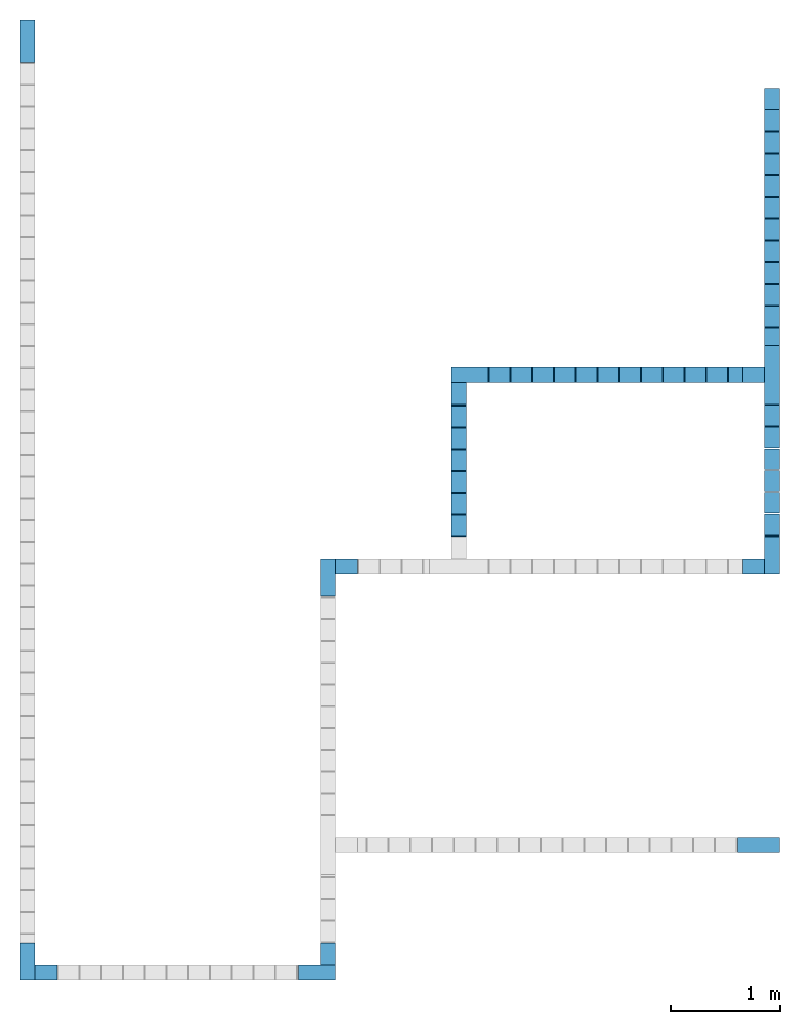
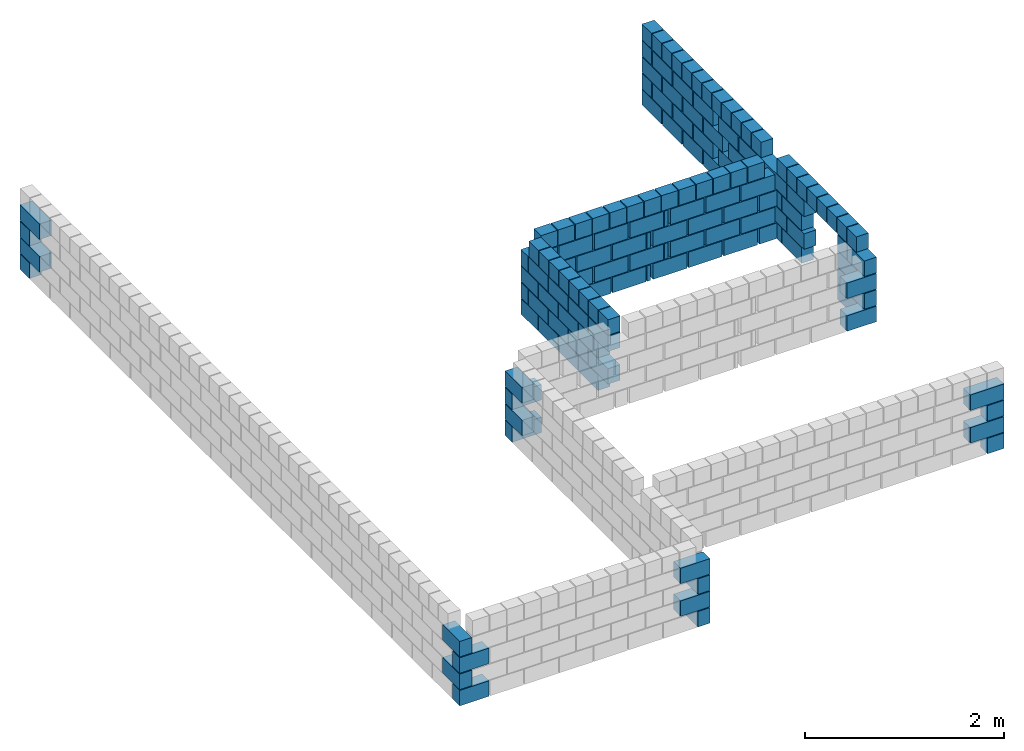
# One storey, part 3 of 3: 13 walls.
"""IFC4 building model written with IfcOpenShell, lengths in centimetres."""

from ifc_helpers import new_model, si_unit, derived_unit, frame, origin, origin_with_axes, origin_2d_with_axis, place, context, project, spatial, rectangle, extrude, element, save


model = new_model("IFC4")

# Units and contexts
model_context = context("Model", 3, precision=1e-05, world=origin_with_axes(), identifier="Body")
ifc_project = project(units=[si_unit("LENGTHUNIT", "METRE", prefix="CENTI"), si_unit("VOLUMEUNIT", "CUBIC_METRE"), si_unit("AREAUNIT", "SQUARE_METRE"), si_unit("POWERUNIT", "WATT"), si_unit("LUMINOUSFLUXUNIT", "LUMEN"), si_unit("ELECTRICCURRENTUNIT", "AMPERE"), si_unit("PRESSUREUNIT", "PASCAL", prefix="KILO"), si_unit("MASSUNIT", "GRAM", prefix="KILO"), si_unit("PLANEANGLEUNIT", "RADIAN"), derived_unit("VOLUMETRICFLOWRATEUNIT", [(si_unit("LENGTHUNIT", "METRE"), 3), (si_unit("TIMEUNIT", "SECOND"), -1)])], contexts=[model_context])

# Site, building, storey
site_placement = place(None, origin_with_axes())
site = spatial("IfcSite", under=ifc_project, at=site_placement)
building_placement = place(site_placement, origin())
building = spatial("IfcBuilding", under=site, at=building_placement)
placement = place(building_placement, origin_with_axes())
storey_placement = place(placement, frame((0.0, 0.0, 272.0), z_axis=(0.0, 0.0, 1.0), x_axis=(1.0, 0.0, 0.0)))
storey = spatial("IfcBuildingStorey", under=building, at=storey_placement, Name="LAJE", CompositionType="ELEMENT", Elevation=272.0)

# Walls
wall_1_placement = place(storey_placement, frame((18.0, 18.0, 79.0), z_axis=(0.0, 0.0, 1.0), x_axis=(1.0, 0.0, 0.0)))
element("IfcWall", 1, at=wall_1_placement, inside=storey, context=model_context, shape_type="SolidModel", body=[
    extrude(rectangle(XDim=34.0, YDim=14.0, at=origin_2d_with_axis()), frame((0.0, -10.0, -79.0), z_axis=(0.0, 0.0, 1.0), x_axis=(1.0, 0.0, 0.0)), (0.0, 0.0, 1.0), 19.0),
    extrude(rectangle(XDim=34.0, YDim=14.0, at=origin_2d_with_axis()), frame((-10.0, 0.0, -59.0), z_axis=(0.0, 0.0, 1.0), x_axis=(0.0, 1.0, 0.0)), (0.0, 0.0, 1.0), 19.0),
    extrude(rectangle(XDim=34.0, YDim=14.0, at=origin_2d_with_axis()), frame((0.0, -10.0, -39.0), z_axis=(0.0, 0.0, 1.0), x_axis=(1.0, 0.0, 0.0)), (0.0, 0.0, 1.0), 19.0),
    extrude(rectangle(XDim=34.0, YDim=14.0, at=origin_2d_with_axis()), frame((-10.0, 0.0, -19.0), z_axis=(0.0, 0.0, 1.0), x_axis=(0.0, 1.0, 0.0)), (0.0, 0.0, 1.0), 19.0),
])
wall_2_placement = place(storey_placement, frame((8.0, 863.51, 79.0), z_axis=(0.0, 0.0, 1.0), x_axis=(1.0, 0.0, 0.0)))
element("IfcWall", 2, at=wall_2_placement, inside=storey, context=model_context, shape_type="SolidModel", body=[
    extrude(rectangle(XDim=19.0, YDim=14.0, at=origin_2d_with_axis()), frame((0.0, 10.0, -79.0), z_axis=(0.0, 0.0, 1.0), x_axis=(0.0, -1.0, 0.0)), (0.0, 0.0, 1.0), 19.0),
    extrude(rectangle(XDim=39.0, YDim=14.0, at=origin_2d_with_axis()), frame((0.0, 0.0, -59.0), z_axis=(0.0, 0.0, 1.0), x_axis=(0.0, -1.0, 0.0)), (0.0, 0.0, 1.0), 19.0),
    extrude(rectangle(XDim=19.0, YDim=14.0, at=origin_2d_with_axis()), frame((0.0, 10.0, -39.0), z_axis=(0.0, 0.0, 1.0), x_axis=(0.0, -1.0, 0.0)), (0.0, 0.0, 1.0), 19.0),
    extrude(rectangle(XDim=39.0, YDim=14.0, at=origin_2d_with_axis()), frame((0.0, 0.0, -19.0), z_axis=(0.0, 0.0, 1.0), x_axis=(0.0, -1.0, 0.0)), (0.0, 0.0, 1.0), 19.0),
])
wall_3_placement = place(storey_placement, frame((274.0, 18.0, 79.0), z_axis=(0.0, 0.0, 1.0), x_axis=(1.0, 0.0, 0.0)))
element("IfcWall", 3, at=wall_3_placement, inside=storey, context=model_context, shape_type="SolidModel", body=[
    extrude(rectangle(XDim=34.0, YDim=14.0, at=origin_2d_with_axis()), frame((10.0, 0.0, -79.0), z_axis=(0.0, 0.0, 1.0), x_axis=(0.0, 1.0, 0.0)), (0.0, 0.0, 1.0), 19.0),
    extrude(rectangle(XDim=34.0, YDim=14.0, at=origin_2d_with_axis()), frame((0.0, -10.0, -59.0), z_axis=(0.0, 0.0, 1.0), x_axis=(-1.0, 0.0, 0.0)), (0.0, 0.0, 1.0), 19.0),
    extrude(rectangle(XDim=34.0, YDim=14.0, at=origin_2d_with_axis()), frame((10.0, 0.0, -39.0), z_axis=(0.0, 0.0, 1.0), x_axis=(0.0, 1.0, 0.0)), (0.0, 0.0, 1.0), 19.0),
    extrude(rectangle(XDim=34.0, YDim=14.0, at=origin_2d_with_axis()), frame((0.0, -10.0, -19.0), z_axis=(0.0, 0.0, 1.0), x_axis=(-1.0, 0.0, 0.0)), (0.0, 0.0, 1.0), 19.0),
])
wall_4_placement = place(storey_placement, frame((692.01, 800.51, 79.0), z_axis=(0.0, 0.0, 1.0), x_axis=(1.0, 0.0, 0.0)))
element("IfcWall", 4, at=wall_4_placement, inside=storey, context=model_context, shape_type="SolidModel", body=[
    extrude(rectangle(XDim=39.0, YDim=14.0, at=origin_2d_with_axis()), frame((0.0, 0.0, -79.0), z_axis=(0.0, 0.0, 1.0), x_axis=(0.0, -1.0, 0.0)), (0.0, 0.0, 1.0), 19.0),
    extrude(rectangle(XDim=19.0, YDim=14.0, at=origin_2d_with_axis()), frame((0.0, 10.0, -59.0), z_axis=(0.0, 0.0, 1.0), x_axis=(0.0, -1.0, 0.0)), (0.0, 0.0, 1.0), 19.0),
    extrude(rectangle(XDim=39.0, YDim=14.0, at=origin_2d_with_axis()), frame((0.0, 0.0, -39.0), z_axis=(0.0, 0.0, 1.0), x_axis=(0.0, -1.0, 0.0)), (0.0, 0.0, 1.0), 19.0),
    extrude(rectangle(XDim=19.0, YDim=14.0, at=origin_2d_with_axis()), frame((0.0, 10.0, -19.0), z_axis=(0.0, 0.0, 1.0), x_axis=(0.0, -1.0, 0.0)), (0.0, 0.0, 1.0), 19.0),
])
wall_5_placement = place(storey_placement, frame((679.51, 125.0, 79.0), z_axis=(0.0, 0.0, 1.0), x_axis=(1.0, 0.0, 0.0)))
element("IfcWall", 5, at=wall_5_placement, inside=storey, context=model_context, shape_type="SolidModel", body=[
    extrude(rectangle(XDim=19.0, YDim=14.0, at=origin_2d_with_axis()), frame((10.0, 0.0, -79.0), z_axis=(0.0, 0.0, 1.0), x_axis=(-1.0, 0.0, 0.0)), (0.0, 0.0, 1.0), 19.0),
    extrude(rectangle(XDim=39.0, YDim=14.0, at=origin_2d_with_axis()), frame((0.0, 0.0, -59.0), z_axis=(0.0, 0.0, 1.0), x_axis=(-1.0, 0.0, 0.0)), (0.0, 0.0, 1.0), 19.0),
    extrude(rectangle(XDim=19.0, YDim=14.0, at=origin_2d_with_axis()), frame((10.0, 0.0, -39.0), z_axis=(0.0, 0.0, 1.0), x_axis=(-1.0, 0.0, 0.0)), (0.0, 0.0, 1.0), 19.0),
    extrude(rectangle(XDim=39.0, YDim=14.0, at=origin_2d_with_axis()), frame((0.0, 0.0, -19.0), z_axis=(0.0, 0.0, 1.0), x_axis=(-1.0, 0.0, 0.0)), (0.0, 0.0, 1.0), 19.0),
])
wall_6_placement = place(storey_placement, frame((682.01, 391.01, 79.0), z_axis=(0.0, 0.0, 1.0), x_axis=(1.0, 0.0, 0.0)))
element("IfcWall", 6, at=wall_6_placement, inside=storey, context=model_context, shape_type="SolidModel", body=[
    extrude(rectangle(XDim=34.0, YDim=14.0, at=origin_2d_with_axis()), frame((0.0, -10.0, -79.0), z_axis=(0.0, 0.0, 1.0), x_axis=(-1.0, 0.0, 0.0)), (0.0, 0.0, 1.0), 19.0),
    extrude(rectangle(XDim=34.0, YDim=14.0, at=origin_2d_with_axis()), frame((10.0, 0.0, -59.0), z_axis=(0.0, 0.0, 1.0), x_axis=(0.0, 1.0, 0.0)), (0.0, 0.0, 1.0), 19.0),
    extrude(rectangle(XDim=34.0, YDim=14.0, at=origin_2d_with_axis()), frame((0.0, -10.0, -39.0), z_axis=(0.0, 0.0, 1.0), x_axis=(-1.0, 0.0, 0.0)), (0.0, 0.0, 1.0), 19.0),
    extrude(rectangle(XDim=34.0, YDim=14.0, at=origin_2d_with_axis()), frame((10.0, 0.0, -19.0), z_axis=(0.0, 0.0, 1.0), x_axis=(0.0, 1.0, 0.0)), (0.0, 0.0, 1.0), 19.0),
])
wall_7_placement = place(storey_placement, frame((294.0, 371.01, 79.0), z_axis=(0.0, 0.0, 1.0), x_axis=(1.0, 0.0, 0.0)))
element("IfcWall", 7, at=wall_7_placement, inside=storey, context=model_context, shape_type="SolidModel", body=[
    extrude(rectangle(XDim=34.0, YDim=14.0, at=origin_2d_with_axis()), frame((0.0, 10.0, -79.0), z_axis=(0.0, 0.0, 1.0), x_axis=(1.0, 0.0, 0.0)), (0.0, 0.0, 1.0), 19.0),
    extrude(rectangle(XDim=34.0, YDim=14.0, at=origin_2d_with_axis()), frame((-10.0, 0.0, -59.0), z_axis=(0.0, 0.0, 1.0), x_axis=(0.0, -1.0, 0.0)), (0.0, 0.0, 1.0), 19.0),
    extrude(rectangle(XDim=34.0, YDim=14.0, at=origin_2d_with_axis()), frame((0.0, 10.0, -39.0), z_axis=(0.0, 0.0, 1.0), x_axis=(1.0, 0.0, 0.0)), (0.0, 0.0, 1.0), 19.0),
    extrude(rectangle(XDim=34.0, YDim=14.0, at=origin_2d_with_axis()), frame((-10.0, 0.0, -19.0), z_axis=(0.0, 0.0, 1.0), x_axis=(0.0, -1.0, 0.0)), (0.0, 0.0, 1.0), 19.0),
])
wall_8_placement = place(storey_placement, frame((682.01, 557.01, 79.0), z_axis=(0.0, 0.0, 1.0), x_axis=(1.0, 0.0, 0.0)))
element("IfcWall", 8, at=wall_8_placement, inside=storey, context=model_context, shape_type="SolidModel", body=[
    extrude(rectangle(XDim=34.0, YDim=14.0, at=origin_2d_with_axis()), frame((0.0, 0.0, -79.0), z_axis=(0.0, 0.0, 1.0), x_axis=(-1.0, 0.0, 0.0)), (0.0, 0.0, 1.0), 19.0),
    extrude(rectangle(XDim=54.0, YDim=14.0, at=origin_2d_with_axis()), frame((10.0, 0.0, -59.0), z_axis=(0.0, 0.0, 1.0), x_axis=(0.0, 1.0, 0.0)), (0.0, 0.0, 1.0), 19.0),
    extrude(rectangle(XDim=34.0, YDim=14.0, at=origin_2d_with_axis()), frame((0.0, 0.0, -39.0), z_axis=(0.0, 0.0, 1.0), x_axis=(-1.0, 0.0, 0.0)), (0.0, 0.0, 1.0), 19.0),
    extrude(rectangle(XDim=54.0, YDim=14.0, at=origin_2d_with_axis()), frame((10.0, 0.0, -19.0), z_axis=(0.0, 0.0, 1.0), x_axis=(0.0, 1.0, 0.0)), (0.0, 0.0, 1.0), 19.0),
])
wall_9_placement = place(storey_placement, frame((414.01, 547.01, 79.0), z_axis=(0.0, 0.0, 1.0), x_axis=(1.0, 0.0, 0.0)))
element("IfcWall", 9, at=wall_9_placement, inside=storey, context=model_context, shape_type="SolidModel", body=[
    extrude(rectangle(XDim=34.0, YDim=14.0, at=origin_2d_with_axis()), frame((-10.0, 0.0, -79.0), z_axis=(0.0, 0.0, 1.0), x_axis=(0.0, -1.0, 0.0)), (0.0, 0.0, 1.0), 19.0),
    extrude(rectangle(XDim=34.0, YDim=14.0, at=origin_2d_with_axis()), frame((0.0, 10.0, -59.0), z_axis=(0.0, 0.0, 1.0), x_axis=(1.0, 0.0, 0.0)), (0.0, 0.0, 1.0), 19.0),
    extrude(rectangle(XDim=34.0, YDim=14.0, at=origin_2d_with_axis()), frame((-10.0, 0.0, -39.0), z_axis=(0.0, 0.0, 1.0), x_axis=(0.0, -1.0, 0.0)), (0.0, 0.0, 1.0), 19.0),
    extrude(rectangle(XDim=34.0, YDim=14.0, at=origin_2d_with_axis()), frame((0.0, 10.0, -19.0), z_axis=(0.0, 0.0, 1.0), x_axis=(1.0, 0.0, 0.0)), (0.0, 0.0, 1.0), 19.0),
])
wall_10_placement = place(storey_placement, frame((547.51, 557.01, 99.0), z_axis=(0.0, 0.0, 1.0), x_axis=(1.0, 0.0, 0.0)))
element("IfcWall", 10, at=wall_10_placement, inside=storey, Name="PAR-LAJE-1", context=model_context, shape_type="SolidModel", body=[
    extrude(rectangle(XDim=39.0, YDim=14.0, at=origin_2d_with_axis()), frame((-115.0, 0.0, -99.0), z_axis=(0.0, 0.0, 1.0), x_axis=(1.0, 0.0, 0.0)), (0.0, 0.0, 1.0), 19.0),
    extrude(rectangle(XDim=39.0, YDim=14.0, at=origin_2d_with_axis()), frame((-74.0, 0.0, -99.0), z_axis=(0.0, 0.0, 1.0), x_axis=(1.0, 0.0, 0.0)), (0.0, 0.0, 1.0), 19.0),
    extrude(rectangle(XDim=39.0, YDim=14.0, at=origin_2d_with_axis()), frame((-33.0, 0.0, -99.0), z_axis=(0.0, 0.0, 1.0), x_axis=(1.0, 0.0, 0.0)), (0.0, 0.0, 1.0), 19.0),
    extrude(rectangle(XDim=39.0, YDim=14.0, at=origin_2d_with_axis()), frame((14.0, 0.0, -99.0), z_axis=(0.0, 0.0, 1.0), x_axis=(1.0, 0.0, 0.0)), (0.0, 0.0, 1.0), 19.0),
    extrude(rectangle(XDim=39.0, YDim=14.0, at=origin_2d_with_axis()), frame((55.0, 0.0, -99.0), z_axis=(0.0, 0.0, 1.0), x_axis=(1.0, 0.0, 0.0)), (0.0, 0.0, 1.0), 19.0),
    extrude(rectangle(XDim=39.0, YDim=14.0, at=origin_2d_with_axis()), frame((96.0, 0.0, -99.0), z_axis=(0.0, 0.0, 1.0), x_axis=(1.0, 0.0, 0.0)), (0.0, 0.0, 1.0), 19.0),
    extrude(rectangle(XDim=4.0, YDim=14.0, at=origin_2d_with_axis()), frame((-10.5, 0.0, -99.0), z_axis=(0.0, 0.0, 1.0), x_axis=(1.0, 0.0, 0.0)), (0.0, 0.0, 1.0), 19.0),
    extrude(rectangle(XDim=39.0, YDim=14.0, at=origin_2d_with_axis()), frame((-95.0, 0.0, -79.0), z_axis=(0.0, 0.0, 1.0), x_axis=(1.0, 0.0, 0.0)), (0.0, 0.0, 1.0), 19.0),
    extrude(rectangle(XDim=39.0, YDim=14.0, at=origin_2d_with_axis()), frame((-54.0, 0.0, -79.0), z_axis=(0.0, 0.0, 1.0), x_axis=(1.0, 0.0, 0.0)), (0.0, 0.0, 1.0), 19.0),
    extrude(rectangle(XDim=39.0, YDim=14.0, at=origin_2d_with_axis()), frame((-13.0, 0.0, -79.0), z_axis=(0.0, 0.0, 1.0), x_axis=(1.0, 0.0, 0.0)), (0.0, 0.0, 1.0), 19.0),
    extrude(rectangle(XDim=39.0, YDim=14.0, at=origin_2d_with_axis()), frame((34.0, 0.0, -79.0), z_axis=(0.0, 0.0, 1.0), x_axis=(1.0, 0.0, 0.0)), (0.0, 0.0, 1.0), 19.0),
    extrude(rectangle(XDim=39.0, YDim=14.0, at=origin_2d_with_axis()), frame((75.0, 0.0, -79.0), z_axis=(0.0, 0.0, 1.0), x_axis=(1.0, 0.0, 0.0)), (0.0, 0.0, 1.0), 19.0),
    extrude(rectangle(XDim=39.0, YDim=14.0, at=origin_2d_with_axis()), frame((116.0, 0.0, -79.0), z_axis=(0.0, 0.0, 1.0), x_axis=(1.0, 0.0, 0.0)), (0.0, 0.0, 1.0), 19.0),
    extrude(rectangle(XDim=4.0, YDim=14.0, at=origin_2d_with_axis()), frame((9.5, 0.0, -79.0), z_axis=(0.0, 0.0, 1.0), x_axis=(1.0, 0.0, 0.0)), (0.0, 0.0, 1.0), 19.0),
    extrude(rectangle(XDim=39.0, YDim=14.0, at=origin_2d_with_axis()), frame((-115.0, 0.0, -59.0), z_axis=(0.0, 0.0, 1.0), x_axis=(1.0, 0.0, 0.0)), (0.0, 0.0, 1.0), 19.0),
    extrude(rectangle(XDim=39.0, YDim=14.0, at=origin_2d_with_axis()), frame((-74.0, 0.0, -59.0), z_axis=(0.0, 0.0, 1.0), x_axis=(1.0, 0.0, 0.0)), (0.0, 0.0, 1.0), 19.0),
    extrude(rectangle(XDim=39.0, YDim=14.0, at=origin_2d_with_axis()), frame((-33.0, 0.0, -59.0), z_axis=(0.0, 0.0, 1.0), x_axis=(1.0, 0.0, 0.0)), (0.0, 0.0, 1.0), 19.0),
    extrude(rectangle(XDim=39.0, YDim=14.0, at=origin_2d_with_axis()), frame((14.0, 0.0, -59.0), z_axis=(0.0, 0.0, 1.0), x_axis=(1.0, 0.0, 0.0)), (0.0, 0.0, 1.0), 19.0),
    extrude(rectangle(XDim=39.0, YDim=14.0, at=origin_2d_with_axis()), frame((55.0, 0.0, -59.0), z_axis=(0.0, 0.0, 1.0), x_axis=(1.0, 0.0, 0.0)), (0.0, 0.0, 1.0), 19.0),
    extrude(rectangle(XDim=39.0, YDim=14.0, at=origin_2d_with_axis()), frame((96.0, 0.0, -59.0), z_axis=(0.0, 0.0, 1.0), x_axis=(1.0, 0.0, 0.0)), (0.0, 0.0, 1.0), 19.0),
    extrude(rectangle(XDim=4.0, YDim=14.0, at=origin_2d_with_axis()), frame((-10.5, 0.0, -59.0), z_axis=(0.0, 0.0, 1.0), x_axis=(1.0, 0.0, 0.0)), (0.0, 0.0, 1.0), 19.0),
    extrude(rectangle(XDim=39.0, YDim=14.0, at=origin_2d_with_axis()), frame((-95.0, 0.0, -39.0), z_axis=(0.0, 0.0, 1.0), x_axis=(1.0, 0.0, 0.0)), (0.0, 0.0, 1.0), 19.0),
    extrude(rectangle(XDim=39.0, YDim=14.0, at=origin_2d_with_axis()), frame((-54.0, 0.0, -39.0), z_axis=(0.0, 0.0, 1.0), x_axis=(1.0, 0.0, 0.0)), (0.0, 0.0, 1.0), 19.0),
    extrude(rectangle(XDim=39.0, YDim=14.0, at=origin_2d_with_axis()), frame((-13.0, 0.0, -39.0), z_axis=(0.0, 0.0, 1.0), x_axis=(1.0, 0.0, 0.0)), (0.0, 0.0, 1.0), 19.0),
    extrude(rectangle(XDim=39.0, YDim=14.0, at=origin_2d_with_axis()), frame((34.0, 0.0, -39.0), z_axis=(0.0, 0.0, 1.0), x_axis=(1.0, 0.0, 0.0)), (0.0, 0.0, 1.0), 19.0),
    extrude(rectangle(XDim=39.0, YDim=14.0, at=origin_2d_with_axis()), frame((75.0, 0.0, -39.0), z_axis=(0.0, 0.0, 1.0), x_axis=(1.0, 0.0, 0.0)), (0.0, 0.0, 1.0), 19.0),
    extrude(rectangle(XDim=39.0, YDim=14.0, at=origin_2d_with_axis()), frame((116.0, 0.0, -39.0), z_axis=(0.0, 0.0, 1.0), x_axis=(1.0, 0.0, 0.0)), (0.0, 0.0, 1.0), 19.0),
    extrude(rectangle(XDim=4.0, YDim=14.0, at=origin_2d_with_axis()), frame((9.5, 0.0, -39.0), z_axis=(0.0, 0.0, 1.0), x_axis=(1.0, 0.0, 0.0)), (0.0, 0.0, 1.0), 19.0),
    extrude(rectangle(XDim=19.0, YDim=14.0, at=origin_2d_with_axis()), frame((-126.0, 0.0, -19.0), z_axis=(0.0, 0.0, 1.0), x_axis=(1.0, 0.0, 0.0)), (0.0, 0.0, 1.0), 19.0),
    extrude(rectangle(XDim=19.0, YDim=14.0, at=origin_2d_with_axis()), frame((-106.0, 0.0, -19.0), z_axis=(0.0, 0.0, 1.0), x_axis=(1.0, 0.0, 0.0)), (0.0, 0.0, 1.0), 19.0),
    extrude(rectangle(XDim=19.0, YDim=14.0, at=origin_2d_with_axis()), frame((-86.0, 0.0, -19.0), z_axis=(0.0, 0.0, 1.0), x_axis=(1.0, 0.0, 0.0)), (0.0, 0.0, 1.0), 19.0),
    extrude(rectangle(XDim=19.0, YDim=14.0, at=origin_2d_with_axis()), frame((-66.0, 0.0, -19.0), z_axis=(0.0, 0.0, 1.0), x_axis=(1.0, 0.0, 0.0)), (0.0, 0.0, 1.0), 19.0),
    extrude(rectangle(XDim=19.0, YDim=14.0, at=origin_2d_with_axis()), frame((-46.0, 0.0, -19.0), z_axis=(0.0, 0.0, 1.0), x_axis=(1.0, 0.0, 0.0)), (0.0, 0.0, 1.0), 19.0),
    extrude(rectangle(XDim=19.0, YDim=14.0, at=origin_2d_with_axis()), frame((-26.0, 0.0, -19.0), z_axis=(0.0, 0.0, 1.0), x_axis=(1.0, 0.0, 0.0)), (0.0, 0.0, 1.0), 19.0),
    extrude(rectangle(XDim=19.0, YDim=14.0, at=origin_2d_with_axis()), frame((-6.0, 0.0, -19.0), z_axis=(0.0, 0.0, 1.0), x_axis=(1.0, 0.0, 0.0)), (0.0, 0.0, 1.0), 19.0),
    extrude(rectangle(XDim=19.0, YDim=14.0, at=origin_2d_with_axis()), frame((14.0, 0.0, -19.0), z_axis=(0.0, 0.0, 1.0), x_axis=(1.0, 0.0, 0.0)), (0.0, 0.0, 1.0), 19.0),
    extrude(rectangle(XDim=19.0, YDim=14.0, at=origin_2d_with_axis()), frame((34.0, 0.0, -19.0), z_axis=(0.0, 0.0, 1.0), x_axis=(1.0, 0.0, 0.0)), (0.0, 0.0, 1.0), 19.0),
    extrude(rectangle(XDim=19.0, YDim=14.0, at=origin_2d_with_axis()), frame((54.0, 0.0, -19.0), z_axis=(0.0, 0.0, 1.0), x_axis=(1.0, 0.0, 0.0)), (0.0, 0.0, 1.0), 19.0),
    extrude(rectangle(XDim=19.0, YDim=14.0, at=origin_2d_with_axis()), frame((74.0, 0.0, -19.0), z_axis=(0.0, 0.0, 1.0), x_axis=(1.0, 0.0, 0.0)), (0.0, 0.0, 1.0), 19.0),
    extrude(rectangle(XDim=19.0, YDim=14.0, at=origin_2d_with_axis()), frame((94.0, 0.0, -19.0), z_axis=(0.0, 0.0, 1.0), x_axis=(1.0, 0.0, 0.0)), (0.0, 0.0, 1.0), 19.0),
    extrude(rectangle(XDim=19.0, YDim=14.0, at=origin_2d_with_axis()), frame((114.0, 0.0, -19.0), z_axis=(0.0, 0.0, 1.0), x_axis=(1.0, 0.0, 0.0)), (0.0, 0.0, 1.0), 19.0),
])
wall_11_placement = place(storey_placement, frame((404.01, 468.91, 99.0), z_axis=(0.0, 0.0, 1.0), x_axis=(1.0, 0.0, 0.0)))
element("IfcWall", 11, at=wall_11_placement, inside=storey, Name="PAR-LAJE-7", context=model_context, shape_type="SolidModel", body=[
    extrude(rectangle(XDim=39.0, YDim=14.0, at=origin_2d_with_axis()), frame((0.0, -40.15, -99.0), z_axis=(0.0, 0.0, 1.0), x_axis=(0.0, 1.0, 0.0)), (0.0, 0.0, 1.0), 19.0),
    extrude(rectangle(XDim=39.0, YDim=14.0, at=origin_2d_with_axis()), frame((0.0, 0.1, -99.0), z_axis=(0.0, 0.0, 1.0), x_axis=(0.0, 1.0, 0.0)), (0.0, 0.0, 1.0), 19.0),
    extrude(rectangle(XDim=39.0, YDim=14.0, at=origin_2d_with_axis()), frame((0.0, 40.35, -99.0), z_axis=(0.0, 0.0, 1.0), x_axis=(0.0, 1.0, 0.0)), (0.0, 0.0, 1.0), 19.0),
    extrude(rectangle(XDim=39.0, YDim=14.0, at=origin_2d_with_axis()), frame((0.0, -60.2, -79.0), z_axis=(0.0, 0.0, 1.0), x_axis=(0.0, 1.0, 0.0)), (0.0, 0.0, 1.0), 19.0),
    extrude(rectangle(XDim=39.0, YDim=14.0, at=origin_2d_with_axis()), frame((0.0, -20.0, -79.0), z_axis=(0.0, 0.0, 1.0), x_axis=(0.0, 1.0, 0.0)), (0.0, 0.0, 1.0), 19.0),
    extrude(rectangle(XDim=39.0, YDim=14.0, at=origin_2d_with_axis()), frame((0.0, 20.2, -79.0), z_axis=(0.0, 0.0, 1.0), x_axis=(0.0, 1.0, 0.0)), (0.0, 0.0, 1.0), 19.0),
    extrude(rectangle(XDim=39.0, YDim=14.0, at=origin_2d_with_axis()), frame((0.0, 60.4, -79.0), z_axis=(0.0, 0.0, 1.0), x_axis=(0.0, 1.0, 0.0)), (0.0, 0.0, 1.0), 19.0),
    extrude(rectangle(XDim=39.0, YDim=14.0, at=origin_2d_with_axis()), frame((0.0, -40.15, -59.0), z_axis=(0.0, 0.0, 1.0), x_axis=(0.0, 1.0, 0.0)), (0.0, 0.0, 1.0), 19.0),
    extrude(rectangle(XDim=39.0, YDim=14.0, at=origin_2d_with_axis()), frame((0.0, 0.1, -59.0), z_axis=(0.0, 0.0, 1.0), x_axis=(0.0, 1.0, 0.0)), (0.0, 0.0, 1.0), 19.0),
    extrude(rectangle(XDim=39.0, YDim=14.0, at=origin_2d_with_axis()), frame((0.0, 40.35, -59.0), z_axis=(0.0, 0.0, 1.0), x_axis=(0.0, 1.0, 0.0)), (0.0, 0.0, 1.0), 19.0),
    extrude(rectangle(XDim=39.0, YDim=14.0, at=origin_2d_with_axis()), frame((0.0, -60.2, -39.0), z_axis=(0.0, 0.0, 1.0), x_axis=(0.0, 1.0, 0.0)), (0.0, 0.0, 1.0), 19.0),
    extrude(rectangle(XDim=39.0, YDim=14.0, at=origin_2d_with_axis()), frame((0.0, -20.0, -39.0), z_axis=(0.0, 0.0, 1.0), x_axis=(0.0, 1.0, 0.0)), (0.0, 0.0, 1.0), 19.0),
    extrude(rectangle(XDim=39.0, YDim=14.0, at=origin_2d_with_axis()), frame((0.0, 20.2, -39.0), z_axis=(0.0, 0.0, 1.0), x_axis=(0.0, 1.0, 0.0)), (0.0, 0.0, 1.0), 19.0),
    extrude(rectangle(XDim=39.0, YDim=14.0, at=origin_2d_with_axis()), frame((0.0, 60.4, -39.0), z_axis=(0.0, 0.0, 1.0), x_axis=(0.0, 1.0, 0.0)), (0.0, 0.0, 1.0), 19.0),
    extrude(rectangle(XDim=19.0, YDim=14.0, at=origin_2d_with_axis()), frame((0.0, -70.4, -19.0), z_axis=(0.0, 0.0, 1.0), x_axis=(0.0, 1.0, 0.0)), (0.0, 0.0, 1.0), 19.0),
    extrude(rectangle(XDim=19.0, YDim=14.0, at=origin_2d_with_axis()), frame((0.0, -50.4, -19.0), z_axis=(0.0, 0.0, 1.0), x_axis=(0.0, 1.0, 0.0)), (0.0, 0.0, 1.0), 19.0),
    extrude(rectangle(XDim=19.0, YDim=14.0, at=origin_2d_with_axis()), frame((0.0, -30.4, -19.0), z_axis=(0.0, 0.0, 1.0), x_axis=(0.0, 1.0, 0.0)), (0.0, 0.0, 1.0), 19.0),
    extrude(rectangle(XDim=19.0, YDim=14.0, at=origin_2d_with_axis()), frame((0.0, -10.4, -19.0), z_axis=(0.0, 0.0, 1.0), x_axis=(0.0, 1.0, 0.0)), (0.0, 0.0, 1.0), 19.0),
    extrude(rectangle(XDim=19.0, YDim=14.0, at=origin_2d_with_axis()), frame((0.0, 9.6, -19.0), z_axis=(0.0, 0.0, 1.0), x_axis=(0.0, 1.0, 0.0)), (0.0, 0.0, 1.0), 19.0),
    extrude(rectangle(XDim=19.0, YDim=14.0, at=origin_2d_with_axis()), frame((0.0, 29.6, -19.0), z_axis=(0.0, 0.0, 1.0), x_axis=(0.0, 1.0, 0.0)), (0.0, 0.0, 1.0), 19.0),
    extrude(rectangle(XDim=19.0, YDim=14.0, at=origin_2d_with_axis()), frame((0.0, 49.6, -19.0), z_axis=(0.0, 0.0, 1.0), x_axis=(0.0, 1.0, 0.0)), (0.0, 0.0, 1.0), 19.0),
    extrude(rectangle(XDim=19.0, YDim=14.0, at=origin_2d_with_axis()), frame((0.0, 69.6, -19.0), z_axis=(0.0, 0.0, 1.0), x_axis=(0.0, 1.0, 0.0)), (0.0, 0.0, 1.0), 19.0),
])
wall_12_placement = place(storey_placement, frame((692.01, 693.01, 99.0), z_axis=(0.0, 0.0, 1.0), x_axis=(1.0, 0.0, 0.0)))
element("IfcWall", 12, at=wall_12_placement, inside=storey, Name="PAR-LAJE-8", context=model_context, shape_type="SolidModel", body=[
    extrude(rectangle(XDim=39.0, YDim=14.0, at=origin_2d_with_axis()), frame((0.0, 66.5, -99.0), z_axis=(0.0, 0.0, 1.0), x_axis=(0.0, -1.0, 0.0)), (0.0, 0.0, 1.0), 19.0),
    extrude(rectangle(XDim=39.0, YDim=14.0, at=origin_2d_with_axis()), frame((0.0, 25.5, -99.0), z_axis=(0.0, 0.0, 1.0), x_axis=(0.0, -1.0, 0.0)), (0.0, 0.0, 1.0), 19.0),
    extrude(rectangle(XDim=39.0, YDim=14.0, at=origin_2d_with_axis()), frame((0.0, -15.5, -99.0), z_axis=(0.0, 0.0, 1.0), x_axis=(0.0, -1.0, 0.0)), (0.0, 0.0, 1.0), 19.0),
    extrude(rectangle(XDim=39.0, YDim=14.0, at=origin_2d_with_axis()), frame((0.0, -66.5, -99.0), z_axis=(0.0, 0.0, 1.0), x_axis=(0.0, -1.0, 0.0)), (0.0, 0.0, 1.0), 19.0),
    extrude(rectangle(XDim=39.0, YDim=14.0, at=origin_2d_with_axis()), frame((0.0, -107.5, -99.0), z_axis=(0.0, 0.0, 1.0), x_axis=(0.0, -1.0, 0.0)), (0.0, 0.0, 1.0), 19.0),
    extrude(rectangle(XDim=39.0, YDim=14.0, at=origin_2d_with_axis()), frame((0.0, 86.5, -79.0), z_axis=(0.0, 0.0, 1.0), x_axis=(0.0, -1.0, 0.0)), (0.0, 0.0, 1.0), 19.0),
    extrude(rectangle(XDim=39.0, YDim=14.0, at=origin_2d_with_axis()), frame((0.0, 45.5, -79.0), z_axis=(0.0, 0.0, 1.0), x_axis=(0.0, -1.0, 0.0)), (0.0, 0.0, 1.0), 19.0),
    extrude(rectangle(XDim=39.0, YDim=14.0, at=origin_2d_with_axis()), frame((0.0, 4.5, -79.0), z_axis=(0.0, 0.0, 1.0), x_axis=(0.0, -1.0, 0.0)), (0.0, 0.0, 1.0), 19.0),
    extrude(rectangle(XDim=39.0, YDim=14.0, at=origin_2d_with_axis()), frame((0.0, -46.5, -79.0), z_axis=(0.0, 0.0, 1.0), x_axis=(0.0, -1.0, 0.0)), (0.0, 0.0, 1.0), 19.0),
    extrude(rectangle(XDim=39.0, YDim=14.0, at=origin_2d_with_axis()), frame((0.0, -87.5, -79.0), z_axis=(0.0, 0.0, 1.0), x_axis=(0.0, -1.0, 0.0)), (0.0, 0.0, 1.0), 19.0),
    extrude(rectangle(XDim=39.0, YDim=14.0, at=origin_2d_with_axis()), frame((0.0, 66.5, -59.0), z_axis=(0.0, 0.0, 1.0), x_axis=(0.0, -1.0, 0.0)), (0.0, 0.0, 1.0), 19.0),
    extrude(rectangle(XDim=39.0, YDim=14.0, at=origin_2d_with_axis()), frame((0.0, 25.5, -59.0), z_axis=(0.0, 0.0, 1.0), x_axis=(0.0, -1.0, 0.0)), (0.0, 0.0, 1.0), 19.0),
    extrude(rectangle(XDim=39.0, YDim=14.0, at=origin_2d_with_axis()), frame((0.0, -15.5, -59.0), z_axis=(0.0, 0.0, 1.0), x_axis=(0.0, -1.0, 0.0)), (0.0, 0.0, 1.0), 19.0),
    extrude(rectangle(XDim=39.0, YDim=14.0, at=origin_2d_with_axis()), frame((0.0, -66.5, -59.0), z_axis=(0.0, 0.0, 1.0), x_axis=(0.0, -1.0, 0.0)), (0.0, 0.0, 1.0), 19.0),
    extrude(rectangle(XDim=39.0, YDim=14.0, at=origin_2d_with_axis()), frame((0.0, -107.5, -59.0), z_axis=(0.0, 0.0, 1.0), x_axis=(0.0, -1.0, 0.0)), (0.0, 0.0, 1.0), 19.0),
    extrude(rectangle(XDim=39.0, YDim=14.0, at=origin_2d_with_axis()), frame((0.0, 86.5, -39.0), z_axis=(0.0, 0.0, 1.0), x_axis=(0.0, -1.0, 0.0)), (0.0, 0.0, 1.0), 19.0),
    extrude(rectangle(XDim=39.0, YDim=14.0, at=origin_2d_with_axis()), frame((0.0, 45.5, -39.0), z_axis=(0.0, 0.0, 1.0), x_axis=(0.0, -1.0, 0.0)), (0.0, 0.0, 1.0), 19.0),
    extrude(rectangle(XDim=39.0, YDim=14.0, at=origin_2d_with_axis()), frame((0.0, 4.5, -39.0), z_axis=(0.0, 0.0, 1.0), x_axis=(0.0, -1.0, 0.0)), (0.0, 0.0, 1.0), 19.0),
    extrude(rectangle(XDim=39.0, YDim=14.0, at=origin_2d_with_axis()), frame((0.0, -46.5, -39.0), z_axis=(0.0, 0.0, 1.0), x_axis=(0.0, -1.0, 0.0)), (0.0, 0.0, 1.0), 19.0),
    extrude(rectangle(XDim=39.0, YDim=14.0, at=origin_2d_with_axis()), frame((0.0, -87.5, -39.0), z_axis=(0.0, 0.0, 1.0), x_axis=(0.0, -1.0, 0.0)), (0.0, 0.0, 1.0), 19.0),
    extrude(rectangle(XDim=19.0, YDim=14.0, at=origin_2d_with_axis()), frame((0.0, 117.5, -19.0), z_axis=(0.0, 0.0, 1.0), x_axis=(0.0, -1.0, 0.0)), (0.0, 0.0, 1.0), 19.0),
    extrude(rectangle(XDim=19.0, YDim=14.0, at=origin_2d_with_axis()), frame((0.0, 97.5, -19.0), z_axis=(0.0, 0.0, 1.0), x_axis=(0.0, -1.0, 0.0)), (0.0, 0.0, 1.0), 19.0),
    extrude(rectangle(XDim=19.0, YDim=14.0, at=origin_2d_with_axis()), frame((0.0, 77.5, -19.0), z_axis=(0.0, 0.0, 1.0), x_axis=(0.0, -1.0, 0.0)), (0.0, 0.0, 1.0), 19.0),
    extrude(rectangle(XDim=19.0, YDim=14.0, at=origin_2d_with_axis()), frame((0.0, 57.5, -19.0), z_axis=(0.0, 0.0, 1.0), x_axis=(0.0, -1.0, 0.0)), (0.0, 0.0, 1.0), 19.0),
    extrude(rectangle(XDim=19.0, YDim=14.0, at=origin_2d_with_axis()), frame((0.0, 37.5, -19.0), z_axis=(0.0, 0.0, 1.0), x_axis=(0.0, -1.0, 0.0)), (0.0, 0.0, 1.0), 19.0),
    extrude(rectangle(XDim=19.0, YDim=14.0, at=origin_2d_with_axis()), frame((0.0, 17.5, -19.0), z_axis=(0.0, 0.0, 1.0), x_axis=(0.0, -1.0, 0.0)), (0.0, 0.0, 1.0), 19.0),
    extrude(rectangle(XDim=19.0, YDim=14.0, at=origin_2d_with_axis()), frame((0.0, -2.5, -19.0), z_axis=(0.0, 0.0, 1.0), x_axis=(0.0, -1.0, 0.0)), (0.0, 0.0, 1.0), 19.0),
    extrude(rectangle(XDim=19.0, YDim=14.0, at=origin_2d_with_axis()), frame((0.0, -22.5, -19.0), z_axis=(0.0, 0.0, 1.0), x_axis=(0.0, -1.0, 0.0)), (0.0, 0.0, 1.0), 19.0),
    extrude(rectangle(XDim=19.0, YDim=14.0, at=origin_2d_with_axis()), frame((0.0, -42.5, -19.0), z_axis=(0.0, 0.0, 1.0), x_axis=(0.0, -1.0, 0.0)), (0.0, 0.0, 1.0), 19.0),
    extrude(rectangle(XDim=19.0, YDim=14.0, at=origin_2d_with_axis()), frame((0.0, -62.5, -19.0), z_axis=(0.0, 0.0, 1.0), x_axis=(0.0, -1.0, 0.0)), (0.0, 0.0, 1.0), 19.0),
    extrude(rectangle(XDim=19.0, YDim=14.0, at=origin_2d_with_axis()), frame((0.0, -82.5, -19.0), z_axis=(0.0, 0.0, 1.0), x_axis=(0.0, -1.0, 0.0)), (0.0, 0.0, 1.0), 19.0),
    extrude(rectangle(XDim=19.0, YDim=14.0, at=origin_2d_with_axis()), frame((0.0, -102.5, -19.0), z_axis=(0.0, 0.0, 1.0), x_axis=(0.0, -1.0, 0.0)), (0.0, 0.0, 1.0), 19.0),
])
wall_13_placement = place(storey_placement, frame((692.01, 469.11, 99.0), z_axis=(0.0, 0.0, 1.0), x_axis=(1.0, 0.0, 0.0)))
element("IfcWall", 13, at=wall_13_placement, inside=storey, Name="PAR-LAJE-8", context=model_context, shape_type="SolidModel", body=[
    extrude(rectangle(XDim=39.0, YDim=14.0, at=origin_2d_with_axis()), frame((0.0, -60.4, -99.0), z_axis=(0.0, 0.0, 1.0), x_axis=(0.0, -1.0, 0.0)), (0.0, 0.0, 1.0), 19.0),
    extrude(rectangle(XDim=9.0, YDim=14.0, at=origin_2d_with_axis()), frame((0.0, 75.2, -99.0), z_axis=(0.0, 0.0, 1.0), x_axis=(0.0, -1.0, 0.0)), (0.0, 0.0, 1.0), 19.0),
    extrude(rectangle(XDim=39.0, YDim=14.0, at=origin_2d_with_axis()), frame((0.0, 50.2, -99.0), z_axis=(0.0, 0.0, 1.0), x_axis=(0.0, -1.0, 0.0)), (0.0, 0.0, 1.0), 19.0),
    extrude(rectangle(XDim=19.0, YDim=14.0, at=origin_2d_with_axis()), frame((0.0, -50.6, -79.0), z_axis=(0.0, 0.0, 1.0), x_axis=(0.0, -1.0, 0.0)), (0.0, 0.0, 1.0), 19.0),
    extrude(rectangle(XDim=34.0, YDim=14.0, at=origin_2d_with_axis()), frame((0.0, 42.9, -79.0), z_axis=(0.0, 0.0, 1.0), x_axis=(0.0, -1.0, 0.0)), (0.0, 0.0, 1.0), 19.0),
    extrude(rectangle(XDim=39.0, YDim=14.0, at=origin_2d_with_axis()), frame((0.0, -60.4, -59.0), z_axis=(0.0, 0.0, 1.0), x_axis=(0.0, -1.0, 0.0)), (0.0, 0.0, 1.0), 19.0),
    extrude(rectangle(XDim=9.0, YDim=14.0, at=origin_2d_with_axis()), frame((0.0, 75.2, -59.0), z_axis=(0.0, 0.0, 1.0), x_axis=(0.0, -1.0, 0.0)), (0.0, 0.0, 1.0), 19.0),
    extrude(rectangle(XDim=39.0, YDim=14.0, at=origin_2d_with_axis()), frame((0.0, 50.2, -59.0), z_axis=(0.0, 0.0, 1.0), x_axis=(0.0, -1.0, 0.0)), (0.0, 0.0, 1.0), 19.0),
    extrude(rectangle(XDim=19.0, YDim=14.0, at=origin_2d_with_axis()), frame((0.0, -50.6, -39.0), z_axis=(0.0, 0.0, 1.0), x_axis=(0.0, -1.0, 0.0)), (0.0, 0.0, 1.0), 19.0),
    extrude(rectangle(XDim=34.0, YDim=14.0, at=origin_2d_with_axis()), frame((0.0, 42.9, -39.0), z_axis=(0.0, 0.0, 1.0), x_axis=(0.0, -1.0, 0.0)), (0.0, 0.0, 1.0), 19.0),
    extrude(rectangle(XDim=19.0, YDim=14.0, at=origin_2d_with_axis()), frame((0.0, 70.4, -19.0), z_axis=(0.0, 0.0, 1.0), x_axis=(0.0, -1.0, 0.0)), (0.0, 0.0, 1.0), 19.0),
    extrude(rectangle(XDim=19.0, YDim=14.0, at=origin_2d_with_axis()), frame((0.0, 50.4, -19.0), z_axis=(0.0, 0.0, 1.0), x_axis=(0.0, -1.0, 0.0)), (0.0, 0.0, 1.0), 19.0),
    extrude(rectangle(XDim=19.0, YDim=14.0, at=origin_2d_with_axis()), frame((0.0, 30.4, -19.0), z_axis=(0.0, 0.0, 1.0), x_axis=(0.0, -1.0, 0.0)), (0.0, 0.0, 1.0), 19.0),
    extrude(rectangle(XDim=19.0, YDim=14.0, at=origin_2d_with_axis()), frame((0.0, 10.4, -19.0), z_axis=(0.0, 0.0, 1.0), x_axis=(0.0, -1.0, 0.0)), (0.0, 0.0, 1.0), 19.0),
    extrude(rectangle(XDim=19.0, YDim=14.0, at=origin_2d_with_axis()), frame((0.0, -9.6, -19.0), z_axis=(0.0, 0.0, 1.0), x_axis=(0.0, -1.0, 0.0)), (0.0, 0.0, 1.0), 19.0),
    extrude(rectangle(XDim=19.0, YDim=14.0, at=origin_2d_with_axis()), frame((0.0, -29.6, -19.0), z_axis=(0.0, 0.0, 1.0), x_axis=(0.0, -1.0, 0.0)), (0.0, 0.0, 1.0), 19.0),
    extrude(rectangle(XDim=19.0, YDim=14.0, at=origin_2d_with_axis()), frame((0.0, -49.6, -19.0), z_axis=(0.0, 0.0, 1.0), x_axis=(0.0, -1.0, 0.0)), (0.0, 0.0, 1.0), 19.0),
    extrude(rectangle(XDim=19.0, YDim=14.0, at=origin_2d_with_axis()), frame((0.0, -69.6, -19.0), z_axis=(0.0, 0.0, 1.0), x_axis=(0.0, -1.0, 0.0)), (0.0, 0.0, 1.0), 19.0),
])

save(model, "model.ifc")
